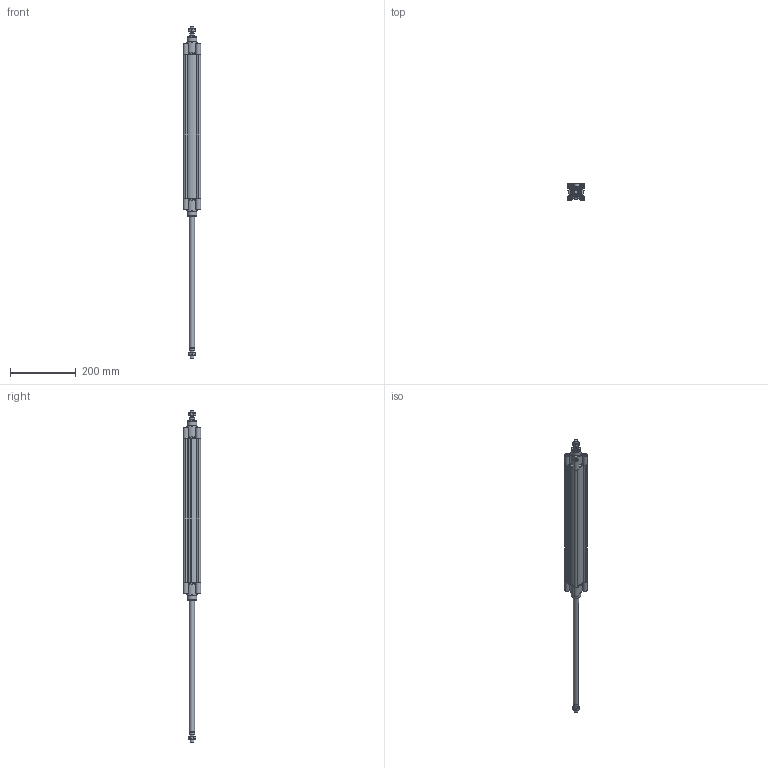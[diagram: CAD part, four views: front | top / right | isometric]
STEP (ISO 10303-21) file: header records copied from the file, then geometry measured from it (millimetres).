
FILE_DESCRIPTION((''),'2;1');
FILE_NAME('I:\Area Tecnica\Disegni\VARIE-3D\Componenti\ECOLIGHT\02\stp\139#_40_0400_02.iam.stp','2012-01-28T09:39:15',(''),(''),'Autodesk Inventor 2012','Autodesk Inventor 2012','');
FILE_SCHEMA(('AUTOMOTIVE_DESIGN { 1 0 10303 214 1 1 1 1 }'));
Length unit declared in the file: millimetre
Products named in the file (5): 139#_40_0400_02; CPL040_004-400; CPL040-001-01; CPL_40SP_0400; 1320_40_18F
Assembly tree (6 placements, depth 2):
  139#_40_0400_02
    CPL040_004-400
    CPL040-001-01  x2
    CPL_40SP_0400
    1320_40_18F  x2
Bounding box: 54 x 54 x 1013 mm (x, y, z)
Volume: 666675.7 mm3; surface area: 331766.7 mm2
Topology: 6 solids, 6 shells, 351 faces, 860 edges, 564 vertices
Faces by surface type: plane 211, cylinder 98, cone 40, torus 2
Full cylindrical faces by diameter (mm): 5 x8, 5.5 x4, 8 x2, 10 x8, 10.5 x10, 10.8 x2, 11.6 x2, 12 x2, 15.5 x2, 16 x4, 30 x2, 35 x2, 40 x4
Entity records: 7104 total; most frequent: CARTESIAN_POINT 1295, DIRECTION 1162, ORIENTED_EDGE 1084, EDGE_CURVE 542, AXIS2_PLACEMENT_3D 413, VERTEX_POINT 380, VECTOR 336, LINE 336
